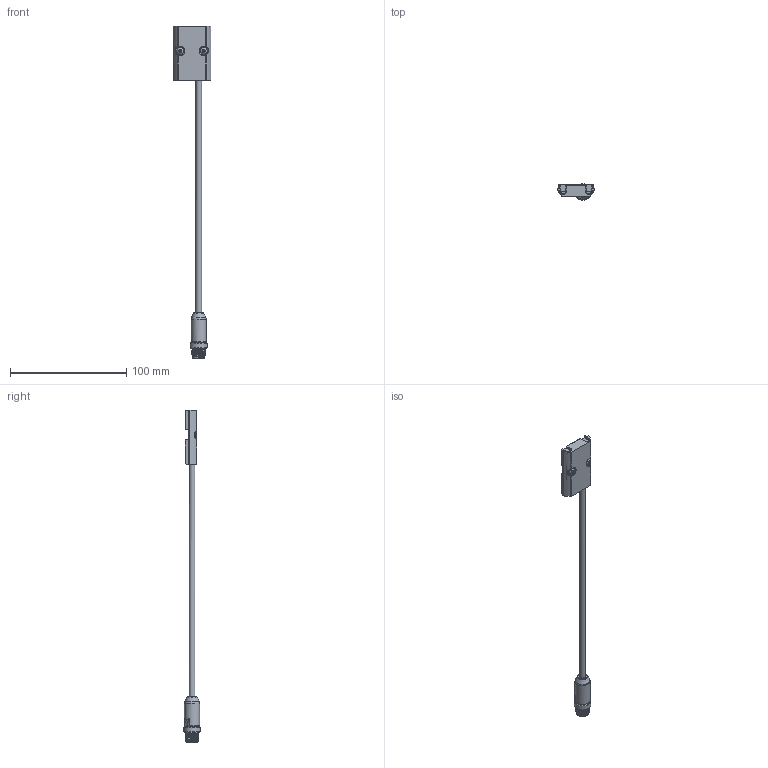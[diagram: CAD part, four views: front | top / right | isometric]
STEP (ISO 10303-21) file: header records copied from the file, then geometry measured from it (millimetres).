
FILE_DESCRIPTION(/* description */ (''),/* implementation_level */ '2;1');
FILE_NAME(/* name */ '8P.stp',/* time_stamp */ '2022-12-01T16:36:48+01:00',/* author */ (''),/* organization */ (''),/* preprocessor_version */ 'ST-DEVELOPER v16.701',/* originating_system */ 'SIEMENS PLM Software NX 1946',/* authorisation */ '');
FILE_SCHEMA (('AP203_CONFIGURATION_CONTROLLED_3D_DESIGN_OF_MECHANICAL_PARTS_AND_ASSEMBLIES_MIM_LF { 1 0 10303 403 2 1 2}'));
Length unit declared in the file: millimetre
Products named in the file (1): MRos3D04D64D7e77
Bounding box: 32 x 14.5 x 285.2 mm (x, y, z)
Volume: 11281.1 mm3; surface area: 15909.3 mm2
Topology: 1 solids, 3 shells, 441 faces, 1132 edges, 712 vertices
Faces by surface type: plane 229, cylinder 92, cone 74, bspline 21, torus 14, sphere 11
Full cylindrical faces by diameter (mm): 3.5 x1, 5 x2, 5.5 x2, 6 x1, 8.25 x1, 9.5 x1, 9.7 x1, 10.35 x1, 10.6 x3, 10.8 x1, 13 x1, 14.5 x1
Entity records: 14785 total; most frequent: CARTESIAN_POINT 4216, DIRECTION 2194, ORIENTED_EDGE 2162, EDGE_CURVE 1081, AXIS2_PLACEMENT_3D 802, VERTEX_POINT 699, LINE 590, VECTOR 590
